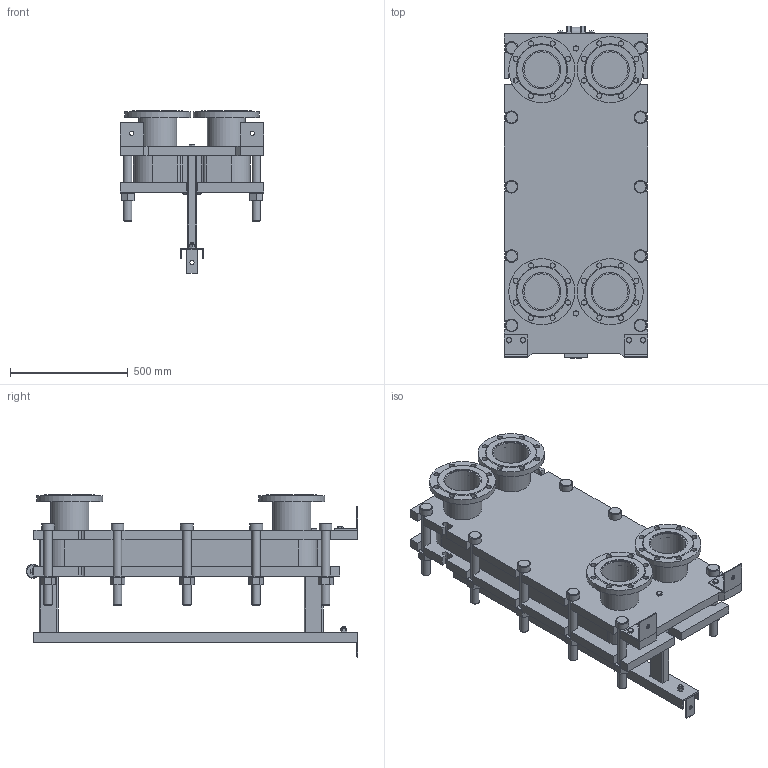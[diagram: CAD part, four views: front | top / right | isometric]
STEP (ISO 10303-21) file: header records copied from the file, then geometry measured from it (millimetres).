
FILE_DESCRIPTION(/* description */ (''),/* implementation_level */ '2;1');
FILE_NAME(/* name */ 'C:\Users\zhuro\Desktop\ENCO\TO\ЭН-041\ЭН-0,5-041-33-1.stp',/* time_stamp */ '2022-06-06T10:51:07+03:00',/* author */ ('zhuro'),/* organization */ (''),/* preprocessor_version */ 'ST-DEVELOPER v18.1',/* originating_system */ 'Autodesk Inventor 2022',/* authorisation */ '');
FILE_SCHEMA (('AUTOMOTIVE_DESIGN { 1 0 10303 214 3 1 1 }'));
Length unit declared in the file: millimetre
Products named in the file (1): ЭН-0,5-041-33-1
Bounding box: 610 x 1406.5 x 687.5 mm (x, y, z)
Volume: 139798374.7 mm3; surface area: 7547216.1 mm2
Topology: 52 solids, 52 shells, 711 faces, 1696 edges, 1094 vertices
Faces by surface type: plane 487, cylinder 177, cone 41, torus 6
Full cylindrical faces by diameter (mm): 8 x4, 10 x2, 16 x8, 18 x3, 22 x32, 36 x24, 50 x1, 54 x10, 60 x12, 151 x4, 161 x8, 280 x4
Entity records: 22667 total; most frequent: CARTESIAN_POINT 5230, DIRECTION 3644, ORIENTED_EDGE 3392, EDGE_CURVE 1696, AXIS2_PLACEMENT_3D 1272, LINE 1100, VECTOR 1100, VERTEX_POINT 1094
